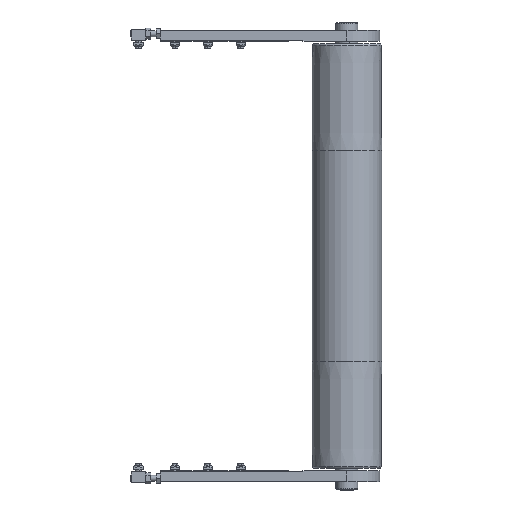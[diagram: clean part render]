
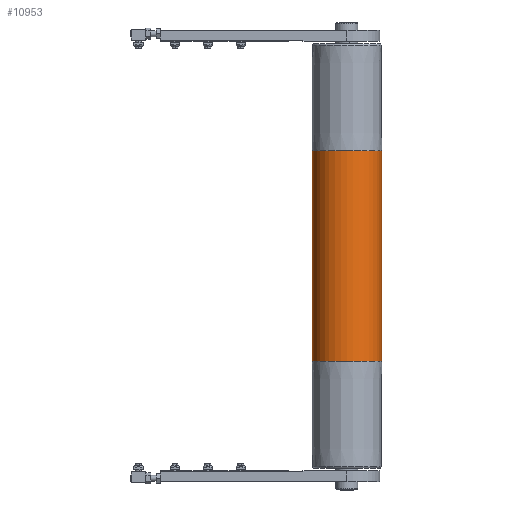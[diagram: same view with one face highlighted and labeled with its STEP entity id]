
A CAD part, front view. The second image highlights one B-rep face of the part: STEP entity #10953.
In plain terms, the highlighted cylindrical face has radius 47.5 mm (diameter 95 mm), a partial arc.
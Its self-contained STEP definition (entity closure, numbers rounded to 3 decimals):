
#110 = DIRECTION ( 'NONE',  ( 0., 0., 1. ) ) ;
#214 = CARTESIAN_POINT ( 'NONE',  ( 0., 0., -143.75 ) ) ;
#431 = VECTOR ( 'NONE', #11682, 1000. ) ;
#4970 = AXIS2_PLACEMENT_3D ( 'NONE', #9218, #21898, #9075 ) ;
#5813 = CYLINDRICAL_SURFACE ( 'NONE', #16164, 47.5 ) ;
#7848 = VECTOR ( 'NONE', #28768, 1000. ) ;
#7921 = CARTESIAN_POINT ( 'NONE',  ( 47.5, 0., -143.75 ) ) ;
#8448 = CIRCLE ( 'NONE', #21385, 47.5 ) ;
#8968 = CARTESIAN_POINT ( 'NONE',  ( -47.5, 0., 287.5 ) ) ;
#9075 = DIRECTION ( 'NONE',  ( 1., 0., 0. ) ) ;
#9218 = CARTESIAN_POINT ( 'NONE',  ( 0., 0., 143.75 ) ) ;
#9872 = EDGE_CURVE ( 'NONE', #21285, #19137, #8448, .T. ) ;
#10953 = ADVANCED_FACE ( 'NONE', ( #27522 ), #5813, .T. ) ;
#11679 = EDGE_CURVE ( 'NONE', #23354, #25042, #32966, .T. ) ;
#11682 = DIRECTION ( 'NONE',  ( 0., 0., -1. ) ) ;
#12061 = CARTESIAN_POINT ( 'NONE',  ( -47.5, 0., -143.75 ) ) ;
#12592 = CARTESIAN_POINT ( 'NONE',  ( 47.5, 0., 143.75 ) ) ;
#15358 = DIRECTION ( 'NONE',  ( -1., 0., 0. ) ) ;
#15566 = CARTESIAN_POINT ( 'NONE',  ( 0., 0., 287.5 ) ) ;
#16163 = ORIENTED_EDGE ( 'NONE', *, *, #11679, .F. ) ;
#16164 = AXIS2_PLACEMENT_3D ( 'NONE', #15566, #19360, #15358 ) ;
#17156 = EDGE_CURVE ( 'NONE', #25042, #19137, #29524, .T. ) ;
#19137 = VERTEX_POINT ( 'NONE', #7921 ) ;
#19360 = DIRECTION ( 'NONE',  ( 0., 0., -1. ) ) ;
#20650 = ORIENTED_EDGE ( 'NONE', *, *, #17156, .F. ) ;
#21285 = VERTEX_POINT ( 'NONE', #12061 ) ;
#21385 = AXIS2_PLACEMENT_3D ( 'NONE', #214, #110, #33977 ) ;
#21898 = DIRECTION ( 'NONE',  ( 0., 0., 1. ) ) ;
#22845 = CARTESIAN_POINT ( 'NONE',  ( -47.5, 0., 143.75 ) ) ;
#23291 = EDGE_CURVE ( 'NONE', #23354, #21285, #29350, .T. ) ;
#23354 = VERTEX_POINT ( 'NONE', #22845 ) ;
#25042 = VERTEX_POINT ( 'NONE', #12592 ) ;
#27522 = FACE_OUTER_BOUND ( 'NONE', #32596, .T. ) ;
#28768 = DIRECTION ( 'NONE',  ( 0., 0., -1. ) ) ;
#29350 = LINE ( 'NONE', #8968, #431 ) ;
#29524 = LINE ( 'NONE', #29851, #7848 ) ;
#29851 = CARTESIAN_POINT ( 'NONE',  ( 47.5, 0., 287.5 ) ) ;
#29995 = ORIENTED_EDGE ( 'NONE', *, *, #23291, .T. ) ;
#32596 = EDGE_LOOP ( 'NONE', ( #20650, #16163, #29995, #32927 ) ) ;
#32927 = ORIENTED_EDGE ( 'NONE', *, *, #9872, .T. ) ;
#32966 = CIRCLE ( 'NONE', #4970, 47.5 ) ;
#33977 = DIRECTION ( 'NONE',  ( 1., 0., 0. ) ) ;
